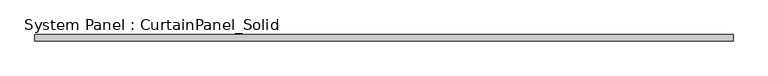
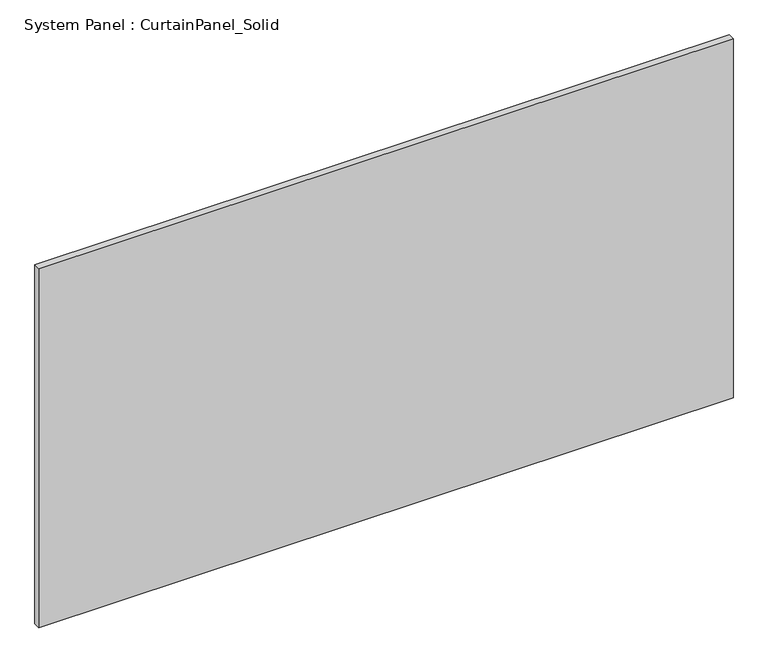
"""IFC4 building model written with IfcOpenShell, lengths in millimetres: plate geometry, System Panel : CurtainPanel_Solid."""

from ifc_helpers import new_model, si_unit, origin, origin_with_axes, place, context, project, spatial, polyline, outline, extrude, source, transform, mapped, element, save


def system_panel_curtainpanel_solid_7c598b10(model_context):
    return source(origin(), model_context, "Body", "SweptSolid", [
        extrude(outline(polyline([(1325.9999999, -12.5), (-1325.9999999, -12.5), (-1325.9999999, 12.5), (1325.9999999, 12.5), (1325.9999999, -12.5)])), origin_with_axes(), (0.0, 0.0, 1.0), 1450.0),
    ])


if __name__ == "__main__":
    model = new_model("IFC4")
    model_context = context("Model", 3, world=origin())
    ifc_project = project(units=[si_unit("LENGTHUNIT", "METRE", prefix="MILLI")], contexts=[model_context])
    site = spatial("IfcSite", under=ifc_project)
    building = spatial("IfcBuilding", under=site)
    placement = place(None, origin())
    system_panel_curtainpanel_solid_shape = system_panel_curtainpanel_solid_7c598b10(model_context)
    element("IfcPlate", 1, ObjectType="System Panel : CurtainPanel_Solid", at=placement, inside=building, context=model_context, shape_type="MappedRepresentation", body=[
        mapped(system_panel_curtainpanel_solid_shape, transform((0.0, 0.0, 0.0), x_axis=(1.0, 0.0, 0.0), y_axis=(0.0, 1.0, 0.0), z_axis=(0.0, 0.0, 1.0))),
    ])
    save(model, "model.ifc")
